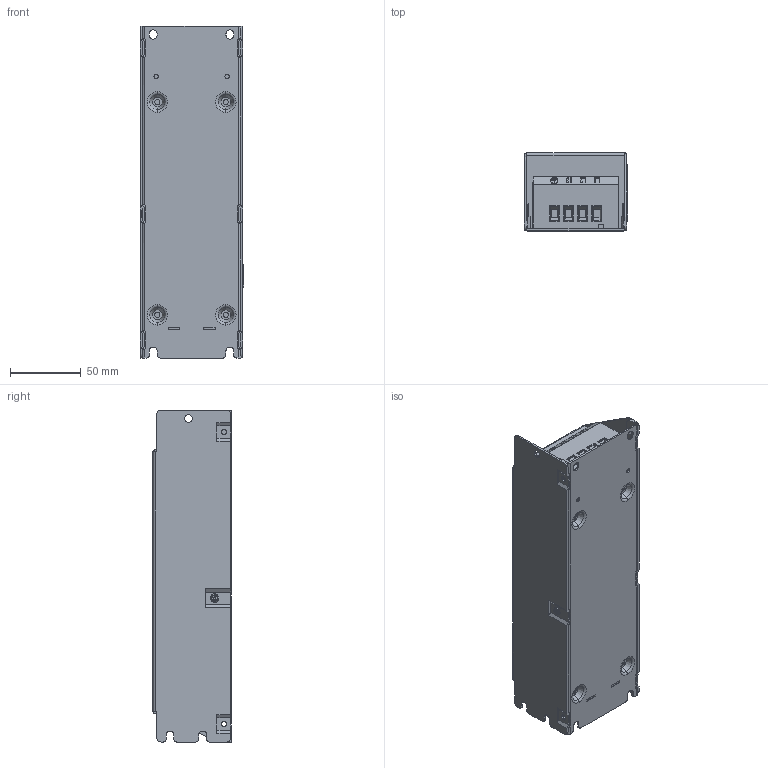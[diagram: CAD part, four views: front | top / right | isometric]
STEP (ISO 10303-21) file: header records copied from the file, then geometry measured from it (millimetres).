
FILE_DESCRIPTION((''),'2;1');
FILE_NAME('EXT_EMC_FILTER_A','2013-09-17T',('dtio'),('Rockwell Automation'),'PRO/ENGINEER BY PARAMETRIC TECHNOLOGY CORPORATION, 2010140','PRO/ENGINEER BY PARAMETRIC TECHNOLOGY CORPORATION, 2010140','');
FILE_SCHEMA(('CONFIG_CONTROL_DESIGN'));
Products named in the file (1): EXT_EMC_FILTER_A
Bounding box: 72.6 x 55 x 234 mm (x, y, z)
Volume: 120335.6 mm3; surface area: 231447.5 mm2
Topology: 1 solids, 1 shells, 4269 faces, 12137 edges, 7999 vertices
Faces by surface type: plane 3879, cylinder 278, cone 56, bspline 38, torus 16, sphere 2
Entity records: 138458 total; most frequent: CARTESIAN_POINT 26826, ORIENTED_EDGE 24270, DIRECTION 21219, EDGE_CURVE 12135, VECTOR 11181, LINE 11181, VERTEX_POINT 7999, AXIS2_PLACEMENT_3D 5019
